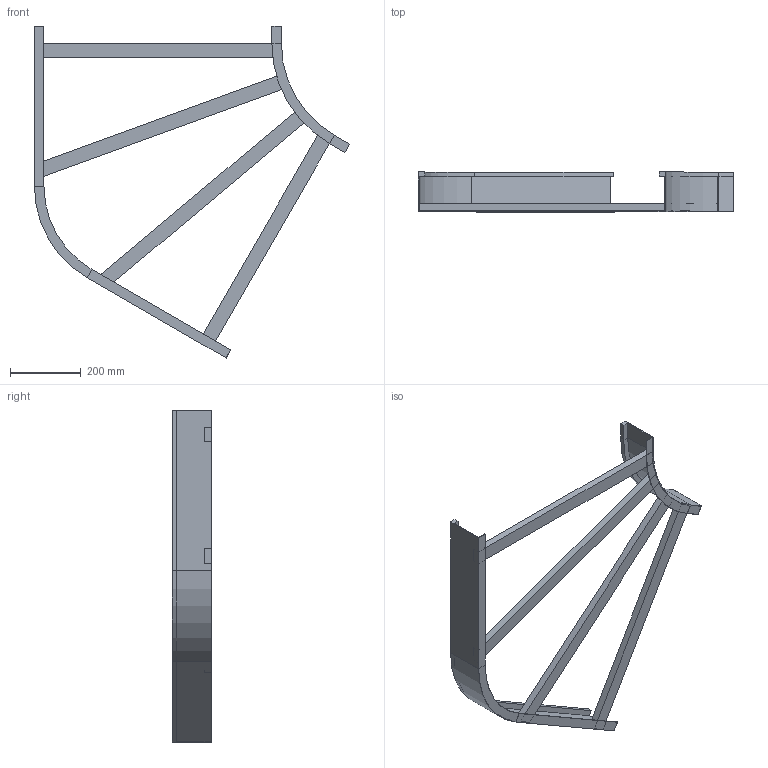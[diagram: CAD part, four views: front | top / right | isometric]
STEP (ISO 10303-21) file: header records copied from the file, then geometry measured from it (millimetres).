
FILE_DESCRIPTION (( 'STEP AP214' ), '1' );
FILE_NAME ('B2_13B3J700.step', '2025-02-21T15:20:14', ( '' ), ( '' ), 'SwSTEP 2.0', 'SolidWorks 2023', '' );
FILE_SCHEMA (( 'AUTOMOTIVE_DESIGN' ));
Length unit declared in the file: millimetre
Products named in the file (5): TRAVERSINO_700; B2_LONGH.INTERNO 60°_H112.5_R300; TRAVERSINO_800_SCANTONATO; B2_LONGH.ESTERNO 60°_H112.5_R300+700; B2_13B3J700
Assembly tree (6 placements, depth 2):
  B2_13B3J700
    B2_LONGH.INTERNO 60°_H112.5_R300
    B2_LONGH.ESTERNO 60°_H112.5_R300+700
    TRAVERSINO_700  x2
    TRAVERSINO_800_SCANTONATO  x2
Bounding box: 893.3 x 112.5 x 941.03 mm (x, y, z)
Volume: 3123826.4 mm3; surface area: 869913.9 mm2
Topology: 6 solids, 6 shells, 76 faces, 160 edges, 96 vertices
Faces by surface type: plane 68, cylinder 8
Entity records: 1830 total; most frequent: DIRECTION 298, CARTESIAN_POINT 289, ORIENTED_EDGE 272, EDGE_CURVE 136, VECTOR 120, LINE 120, AXIS2_PLACEMENT_3D 89, VERTEX_POINT 80
